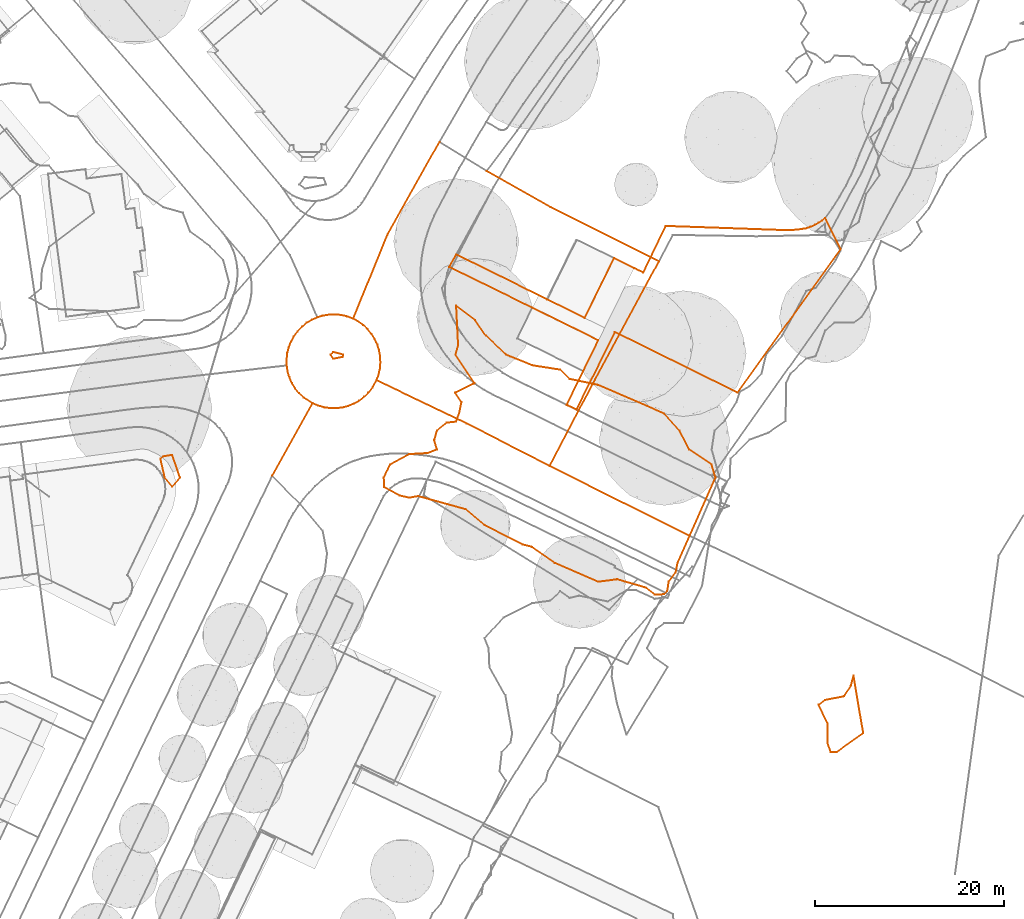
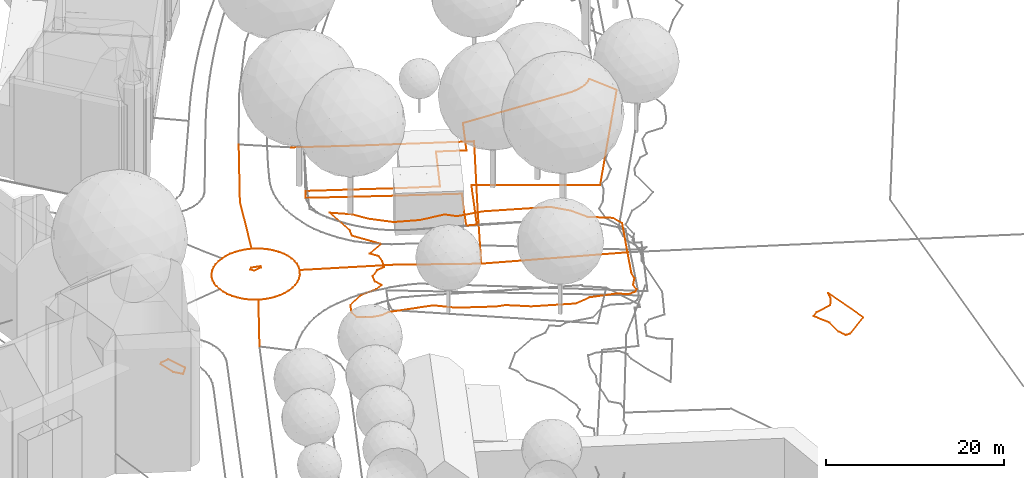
# Not in any storey, part 192 of 494: 16 proxies.
"""IFC2X3 model written with IfcOpenShell, lengths in metres."""

from ifc_helpers import new_model, entity, si_unit, frame, origin_with_axes, place, context, subcontext, project, element, save


model = new_model("IFC2X3")

# Units and contexts
model_context = context("Model", 3, precision=1e-05, world=origin_with_axes())
body_context = subcontext(model_context, "Body", "Model", "MODEL_VIEW")
ifc_project = project(units=[si_unit("AREAUNIT", "SQUARE_METRE"), si_unit("LENGTHUNIT", "METRE")], contexts=[model_context])

# Proxies
proxy_1_placement = place(None, frame((579.775732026, 189.0307373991, 502.621), z_axis=(0.0, 0.0, 1.0), x_axis=(1.0, 0.0, 0.0)))
element("IfcBuildingElementProxy", 1, at=proxy_1_placement, Name="Road 114", ObjectType="NOTDEFINED", context=body_context, shape_type="GeometricCurveSet", body=[
    entity("IfcGeometricCurveSet", [entity("IfcPolyline", [entity("IfcCartesianPoint", [0.0, 0.0, 0.0]), entity("IfcCartesianPoint", [0.0959999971, -0.62399998, 0.004]), entity("IfcCartesianPoint", [0.2760000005, -1.2469999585, 0.008]), entity("IfcCartesianPoint", [0.5359999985, -1.8419999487, 0.013]), entity("IfcCartesianPoint", [0.9010000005, -2.4389999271, 0.017]), entity("IfcCartesianPoint", [1.2779999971, -2.9049999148, 0.02]), entity("IfcCartesianPoint", [1.7850000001, -3.3869998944, 0.024]), entity("IfcCartesianPoint", [2.7229999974, -3.9969998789, 0.032])])]),
])
proxy_2_placement = place(None, frame((607.5437320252, 178.413737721, 502.828), z_axis=(0.0, 0.0, 1.0), x_axis=(1.0, 0.0, 0.0)))
element("IfcBuildingElementProxy", 2, at=proxy_2_placement, Name="Road 127", ObjectType="NOTDEFINED", context=body_context, shape_type="GeometricCurveSet", body=[
    entity("IfcGeometricCurveSet", [entity("IfcPolyline", [entity("IfcCartesianPoint", [0.0, 0.0, 0.0]), entity("IfcCartesianPoint", [4.8029999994, 9.1429997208, 0.347]), entity("IfcCartesianPoint", [11.5579999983, 21.6259993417, -0.398])])]),
])
proxy_3_placement = place(None, frame((600.8927320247, 209.5847367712, 502.176), z_axis=(0.0, 0.0, 1.0), x_axis=(1.0, 0.0, 0.0)))
element("IfcBuildingElementProxy", 3, at=proxy_3_placement, Name="Road 130", ObjectType="NOTDEFINED", context=body_context, shape_type="GeometricCurveSet", body=[
    entity("IfcGeometricCurveSet", [entity("IfcPolyline", [entity("IfcCartesianPoint", [18.2089999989, -9.5449997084, 0.254]), entity("IfcCartesianPoint", [6.754999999, -3.8189998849, 0.212]), entity("IfcCartesianPoint", [0.0, 0.0, 0.0])])]),
])
proxy_4_placement = place(None, frame((586.7867320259, 193.9767372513, 502.713), z_axis=(0.0, 0.0, 1.0), x_axis=(1.0, 0.0, 0.0)))
element("IfcBuildingElementProxy", 4, at=proxy_4_placement, Name="Road 173", ObjectType="NOTDEFINED", context=body_context, shape_type="GeometricCurveSet", body=[
    entity("IfcGeometricCurveSet", [entity("IfcPolyline", [entity("IfcCartesianPoint", [2.4659999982, -6.5069998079, 0.161]), entity("IfcCartesianPoint", [2.6919999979, -5.8849998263, 0.147]), entity("IfcCartesianPoint", [2.8319999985, -5.2509998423, 0.133]), entity("IfcCartesianPoint", [2.8859999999, -4.6529998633, 0.121]), entity("IfcCartesianPoint", [2.8619999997, -4.0049998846, 0.107]), entity("IfcCartesianPoint", [2.743999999, -3.3159999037, 0.092]), entity("IfcCartesianPoint", [2.5639999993, -2.7429999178, 0.08]), entity("IfcCartesianPoint", [2.2939999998, -2.1519999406, 0.066]), entity("IfcCartesianPoint", [1.9489999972, -1.6019999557, 0.052]), entity("IfcCartesianPoint", [1.5350000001, -1.1009999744, 0.038]), entity("IfcCartesianPoint", [1.0590000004, -0.6599999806, 0.026]), entity("IfcCartesianPoint", [0.4869999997, -0.2570000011, 0.011]), entity("IfcCartesianPoint", [0.0, 0.0, 0.0])])]),
])
proxy_5_placement = place(None, frame((583.0117320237, 194.128737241, 502.603), z_axis=(0.0, 0.0, 1.0), x_axis=(1.0, 0.0, 0.0)))
element("IfcBuildingElementProxy", 5, at=proxy_5_placement, Name="Road 174", ObjectType="NOTDEFINED", context=body_context, shape_type="GeometricCurveSet", body=[
    entity("IfcGeometricCurveSet", [entity("IfcPolyline", [entity("IfcCartesianPoint", [3.7750000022, -0.1519999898, 0.11]), entity("IfcCartesianPoint", [3.1209999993, 0.0949999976, 0.09]), entity("IfcCartesianPoint", [2.4890000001, 0.2399999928, 0.071]), entity("IfcCartesianPoint", [1.8910000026, 0.297999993, 0.055]), entity("IfcCartesianPoint", [1.2420000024, 0.279999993, 0.036]), entity("IfcCartesianPoint", [0.5520000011, 0.1659999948, 0.016]), entity("IfcCartesianPoint", [0.0, 0.0, 0.0])])]),
])
proxy_6_placement = place(None, frame((579.7607320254, 189.6997373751, 502.62), z_axis=(0.0, 0.0, 1.0), x_axis=(1.0, 0.0, 0.0)))
element("IfcBuildingElementProxy", 6, at=proxy_6_placement, Name="Road 175", ObjectType="NOTDEFINED", context=body_context, shape_type="GeometricCurveSet", body=[
    entity("IfcGeometricCurveSet", [entity("IfcPolyline", [entity("IfcCartesianPoint", [3.2509999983, 4.4289998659, -0.017]), entity("IfcCartesianPoint", [2.680999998, 4.1789998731, -0.016]), entity("IfcCartesianPoint", [2.125, 3.8439998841, -0.014]), entity("IfcCartesianPoint", [1.6160000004, 3.4389998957, -0.012]), entity("IfcCartesianPoint", [1.1329999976, 2.9339999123, -0.01]), entity("IfcCartesianPoint", [0.7529999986, 2.4059999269, -0.007]), entity("IfcCartesianPoint", [0.4450000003, 1.8349999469, -0.006]), entity("IfcCartesianPoint", [0.2129999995, 1.2269999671, -0.004]), entity("IfcCartesianPoint", [0.0720000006, 0.6449999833, -0.002]), entity("IfcCartesianPoint", [0.0, 0.0, 0.0]), entity("IfcCartesianPoint", [0.0150000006, -0.668999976, 0.001])])]),
])
proxy_7_placement = place(None, frame((582.4987320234, 185.0337375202, 502.653), z_axis=(0.0, 0.0, 1.0), x_axis=(1.0, 0.0, 0.0)))
element("IfcBuildingElementProxy", 7, at=proxy_7_placement, Name="Road 176", ObjectType="NOTDEFINED", context=body_context, shape_type="GeometricCurveSet", body=[
    entity("IfcGeometricCurveSet", [entity("IfcPolyline", [entity("IfcCartesianPoint", [0.0, 0.0, 0.0]), entity("IfcCartesianPoint", [0.5789999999, -0.2439999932, 0.017]), entity("IfcCartesianPoint", [1.2540000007, -0.4279999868, 0.036]), entity("IfcCartesianPoint", [1.8980000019, -0.5119999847, 0.053]), entity("IfcCartesianPoint", [2.5089999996, -0.513999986, 0.071]), entity("IfcCartesianPoint", [3.1540000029, -0.4329999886, 0.088]), entity("IfcCartesianPoint", [3.7340000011, -0.2839999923, 0.106]), entity("IfcCartesianPoint", [4.3839999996, -0.0239999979, 0.125]), entity("IfcCartesianPoint", [4.9070000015, 0.2699999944, 0.141]), entity("IfcCartesianPoint", [5.4649999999, 0.6899999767, 0.161]), entity("IfcCartesianPoint", [5.8940000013, 1.1099999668, 0.177]), entity("IfcCartesianPoint", [6.325000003, 1.6599999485, 0.196]), entity("IfcCartesianPoint", [6.7540000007, 2.4359999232, 0.221])])]),
])
proxy_8_placement = place(None, frame((607.5437320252, 178.413737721, 502.828), z_axis=(0.0, 0.0, 1.0), x_axis=(1.0, 0.0, 0.0)))
element("IfcBuildingElementProxy", 8, at=proxy_8_placement, Name="Road 183", ObjectType="NOTDEFINED", context=body_context, shape_type="GeometricCurveSet", body=[
    entity("IfcGeometricCurveSet", [entity("IfcPolyline", [entity("IfcCartesianPoint", [14.7899999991, -7.3989997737, 0.877]), entity("IfcCartesianPoint", [0.0, 0.0, 0.0])])]),
])
proxy_9_placement = place(None, frame((589.2527320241, 187.4697374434, 502.874), z_axis=(0.0, 0.0, 1.0), x_axis=(1.0, 0.0, 0.0)))
element("IfcBuildingElementProxy", 9, at=proxy_9_placement, Name="Road 184", ObjectType="NOTDEFINED", context=body_context, shape_type="GeometricCurveSet", body=[
    entity("IfcGeometricCurveSet", [entity("IfcPolyline", [entity("IfcCartesianPoint", [18.2910000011, -9.0559997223, -0.046]), entity("IfcCartesianPoint", [9.5240000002, -4.558999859, 0.15]), entity("IfcCartesianPoint", [0.0, 0.0, 0.0])])]),
])
proxy_10_placement = place(None, frame((586.7867320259, 193.9767372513, 502.713), z_axis=(0.0, 0.0, 1.0), x_axis=(1.0, 0.0, 0.0)))
element("IfcBuildingElementProxy", 10, at=proxy_10_placement, Name="Road 187", ObjectType="NOTDEFINED", context=body_context, shape_type="GeometricCurveSet", body=[
    entity("IfcGeometricCurveSet", [entity("IfcPolyline", [entity("IfcCartesianPoint", [0.0, 0.0, 0.0]), entity("IfcCartesianPoint", [3.6199999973, 8.9039997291, -0.189]), entity("IfcCartesianPoint", [9.1140000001, 18.6919994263, -0.263])])]),
])
proxy_11_placement = place(None, frame((578.2417320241, 177.4157377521, 502.343), z_axis=(0.0, 0.0, 1.0), x_axis=(1.0, 0.0, 0.0)))
element("IfcBuildingElementProxy", 11, at=proxy_11_placement, Name="Road 192", ObjectType="NOTDEFINED", context=body_context, shape_type="GeometricCurveSet", body=[
    entity("IfcGeometricCurveSet", [entity("IfcPolyline", [entity("IfcCartesianPoint", [4.2569999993, 7.6179997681, 0.31]), entity("IfcCartesianPoint", [0.0, 0.0, 0.0])])]),
])
proxy_12_placement = place(None, frame((596.9377320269, 199.4437160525, 502.801766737), z_axis=(0.0, 0.0, 1.0), x_axis=(1.0, 0.0, 0.0)))
element("IfcBuildingElementProxy", 12, at=proxy_12_placement, Name="Roads Outline 71", ObjectType="NOTDEFINED", context=body_context, shape_type="GeometricCurveSet", body=[
    entity("IfcGeometricCurveSet", [entity("IfcPolyline", [entity("IfcCartesianPoint", [0.0, 0.0, 0.0]), entity("IfcCartesianPoint", [0.7339999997, 1.3230000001, -0.1089868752]), entity("IfcCartesianPoint", [10.3649999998, -3.4269999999, -0.2070485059]), entity("IfcCartesianPoint", [14.3099999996, -5.3740000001, -0.1878589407]), entity("IfcCartesianPoint", [17.4209999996, 0.933, -0.3236407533]), entity("IfcCartesianPoint", [19.5269999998, -0.121, -0.3155952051]), entity("IfcCartesianPoint", [20.5089999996, -0.567, -0.3334542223]), entity("IfcCartesianPoint", [22.8739999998, 4.334, -0.3777600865]), entity("IfcCartesianPoint", [35.4549999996, 3.8969999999, -0.6502011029]), entity("IfcCartesianPoint", [36.0749999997, 3.9010000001, -0.6904594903]), entity("IfcCartesianPoint", [36.6939999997, 3.943, -0.7223518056]), entity("IfcCartesianPoint", [37.1859999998, 4.0020000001, -0.7438196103]), entity("IfcCartesianPoint", [37.6739999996, 4.0859999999, -0.7694910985]), entity("IfcCartesianPoint", [38.1979999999, 4.2490000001, -0.7997894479]), entity("IfcCartesianPoint", [38.699, 4.4709999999, -0.7973903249]), entity("IfcCartesianPoint", [39.0669999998, 4.6809999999, -0.7991479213]), entity("IfcCartesianPoint", [39.4139999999, 4.923, -0.7910258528]), entity("IfcCartesianPoint", [39.7369999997, 5.196, -0.7632810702]), entity("IfcCartesianPoint", [41.378, 1.9039999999, -0.8549117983]), entity("IfcCartesianPoint", [30.4719999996, -13.2849999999, -0.8401155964]), entity("IfcCartesianPoint", [17.5119999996, -6.861, -0.1998871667]), entity("IfcCartesianPoint", [13.4529999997, -15.091, 0.7831385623]), entity("IfcCartesianPoint", [12.5559999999, -14.6499999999, 0.7222772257]), entity("IfcCartesianPoint", [12.3999999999, -14.5730000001, 0.7153123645]), entity("IfcCartesianPoint", [14.1599999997, -11.0020000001, -0.0651794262]), entity("IfcCartesianPoint", [15.7629999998, -7.7509999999, -0.2479024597]), entity("IfcCartesianPoint", [8.7799999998, -4.3060000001, -0.1778736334]), entity("IfcCartesianPoint", [0.0, 0.0, 0.0])])]),
])
proxy_13_placement = place(None, frame((584.4156405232, 190.1707160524, 503.0), z_axis=(0.0, 0.0, 1.0), x_axis=(1.0, 0.0, 0.0)))
element("IfcBuildingElementProxy", 13, at=proxy_13_placement, Name="Contour Line 503.0 m", ObjectType="NOTDEFINED", context=body_context, shape_type="GeometricCurveSet", body=[
    entity("IfcGeometricCurveSet", [entity("IfcPolyline", [entity("IfcCartesianPoint", [1.3344429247, 0.0, 0.0]), entity("IfcCartesianPoint", [1.2620915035, -0.2333333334, 0.0]), entity("IfcCartesianPoint", [0.2620915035, -0.4212184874, 0.0]), entity("IfcCartesianPoint", [0.0, 0.0, 0.0]), entity("IfcCartesianPoint", [0.2620915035, 0.2872492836, 0.0]), entity("IfcCartesianPoint", [1.3344429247, 0.0, 0.0])])]),
])
proxy_14_placement = place(None, frame((566.4184546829, 179.1707160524, 503.0), z_axis=(0.0, 0.0, 1.0), x_axis=(1.0, 0.0, 0.0)))
element("IfcBuildingElementProxy", 14, at=proxy_14_placement, Name="Contour Line 503.0 m", ObjectType="NOTDEFINED", context=body_context, shape_type="GeometricCurveSet", body=[
    entity("IfcGeometricCurveSet", [entity("IfcPolyline", [entity("IfcCartesianPoint", [2.0709419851, -2.0, 0.0]), entity("IfcCartesianPoint", [1.2592773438, -2.9213793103, 0.0]), entity("IfcCartesianPoint", [0.4599155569, -2.0, 0.0]), entity("IfcCartesianPoint", [0.0, 0.0, 0.0]), entity("IfcCartesianPoint", [0.2592773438, 0.2595307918, 0.0]), entity("IfcCartesianPoint", [1.2592773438, 0.414202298, 0.0]), entity("IfcCartesianPoint", [2.0709419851, -2.0, 0.0])])]),
])
proxy_15_placement = place(None, frame((590.0275521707, 177.1707160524, 503.0), z_axis=(0.0, 0.0, 1.0), x_axis=(1.0, 0.0, 0.0)))
element("IfcBuildingElementProxy", 15, at=proxy_15_placement, Name="Contour Line 503.0 m", ObjectType="NOTDEFINED", context=body_context, shape_type="GeometricCurveSet", body=[
    entity("IfcGeometricCurveSet", [entity("IfcPolyline", [entity("IfcCartesianPoint", [29.9598290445, -12.0, 0.0]), entity("IfcCartesianPoint", [29.650179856, -12.3098385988, 0.0]), entity("IfcCartesianPoint", [28.650179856, -12.3758725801, 0.0]), entity("IfcCartesianPoint", [27.650179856, -11.609602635, 0.0]), entity("IfcCartesianPoint", [24.650179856, -10.7374023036, 0.0]), entity("IfcCartesianPoint", [22.650179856, -10.9992320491, 0.0]), entity("IfcCartesianPoint", [18.0665601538, -9.0, 0.0]), entity("IfcCartesianPoint", [15.650179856, -7.3138812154, 0.0]), entity("IfcCartesianPoint", [14.650179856, -7.0588831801, 0.0]), entity("IfcCartesianPoint", [10.650179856, -5.0231713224, 0.0]), entity("IfcCartesianPoint", [8.650179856, -3.3335538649, 0.0]), entity("IfcCartesianPoint", [3.650179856, -1.9497589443, 0.0]), entity("IfcCartesianPoint", [2.650179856, -2.1088015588, 0.0]), entity("IfcCartesianPoint", [1.650179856, -1.8843306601, 0.0]), entity("IfcCartesianPoint", [0.0456782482, -1.0, 0.0]), entity("IfcCartesianPoint", [0.0, 0.0, 0.0]), entity("IfcCartesianPoint", [0.650179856, 1.4070841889, 0.0]), entity("IfcCartesianPoint", [2.650179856, 2.4899507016, 0.0]), entity("IfcCartesianPoint", [4.650179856, 2.6039040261, 0.0]), entity("IfcCartesianPoint", [5.6222357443, 3.0, 0.0]), entity("IfcCartesianPoint", [5.3341122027, 4.0, 0.0]), entity("IfcCartesianPoint", [5.6122051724, 5.0, 0.0]), entity("IfcCartesianPoint", [6.650179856, 5.8119747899, 0.0]), entity("IfcCartesianPoint", [7.650179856, 5.9291187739, 0.0]), entity("IfcCartesianPoint", [8.0059139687, 7.0, 0.0]), entity("IfcCartesianPoint", [8.1993637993, 8.0, 0.0]), entity("IfcCartesianPoint", [7.5453992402, 9.0, 0.0]), entity("IfcCartesianPoint", [9.5849877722, 10.0, 0.0]), entity("IfcCartesianPoint", [7.5716653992, 13.0, 0.0]), entity("IfcCartesianPoint", [7.8600244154, 14.0, 0.0]), entity("IfcCartesianPoint", [7.650179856, 18.1694915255, 0.0]), entity("IfcCartesianPoint", [9.650179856, 16.6506890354, 0.0]), entity("IfcCartesianPoint", [10.7983280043, 15.0, 0.0]), entity("IfcCartesianPoint", [12.9376751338, 13.0, 0.0]), entity("IfcCartesianPoint", [15.650179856, 11.8875977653, 0.0]), entity("IfcCartesianPoint", [18.650179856, 11.4177093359, 0.0]), entity("IfcCartesianPoint", [19.650179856, 10.4417518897, 0.0]), entity("IfcCartesianPoint", [22.650179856, 9.8072217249, 0.0]), entity("IfcCartesianPoint", [29.650179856, 6.7788092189, 0.0]), entity("IfcCartesianPoint", [31.2547279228, 5.0, 0.0]), entity("IfcCartesianPoint", [32.2943856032, 3.0, 0.0]), entity("IfcCartesianPoint", [34.650179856, 1.4076713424, 0.0]), entity("IfcCartesianPoint", [35.0459903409, 0.0, 0.0]), entity("IfcCartesianPoint", [31.0404052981, -9.0, 0.0]), entity("IfcCartesianPoint", [30.848853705, -10.0, 0.0]), entity("IfcCartesianPoint", [30.1144494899, -11.0, 0.0]), entity("IfcCartesianPoint", [29.9598290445, -12.0, 0.0])])]),
])
proxy_16_placement = place(None, frame((635.9802961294, 153.1707160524, 501.0), z_axis=(0.0, 0.0, 1.0), x_axis=(1.0, 0.0, 0.0)))
element("IfcBuildingElementProxy", 16, at=proxy_16_placement, Name="Contour Line 501.0 m", ObjectType="NOTDEFINED", context=body_context, shape_type="GeometricCurveSet", body=[
    entity("IfcGeometricCurveSet", [entity("IfcPolyline", [entity("IfcCartesianPoint", [1.8837104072, -5.0, 0.0]), entity("IfcCartesianPoint", [1.2953194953, -5.0, 0.0]), entity("IfcCartesianPoint", [0.9339628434, -4.0, 0.0]), entity("IfcCartesianPoint", [0.9562005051, -2.0, 0.0]), entity("IfcCartesianPoint", [0.0, 0.0, 0.0]), entity("IfcCartesianPoint", [0.6974358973, 0.509363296, 0.0]), entity("IfcCartesianPoint", [2.6974358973, 0.8990654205, 0.0]), entity("IfcCartesianPoint", [3.4036709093, 2.0, 0.0]), entity("IfcCartesianPoint", [3.6974358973, 3.076923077, 0.0]), entity("IfcCartesianPoint", [4.7279387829, -3.0, 0.0]), entity("IfcCartesianPoint", [1.8837104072, -5.0, 0.0])])]),
])

save(model, "model.ifc")
